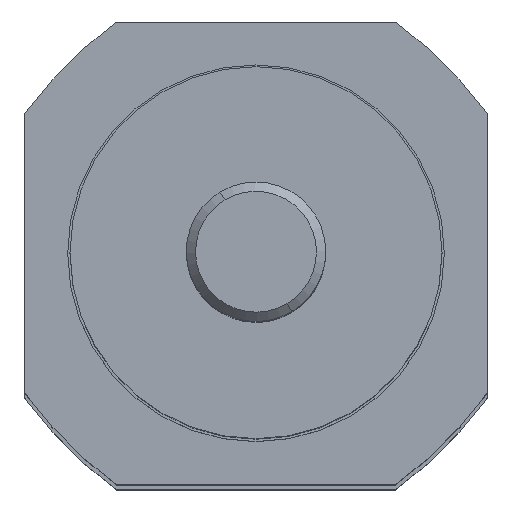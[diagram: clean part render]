
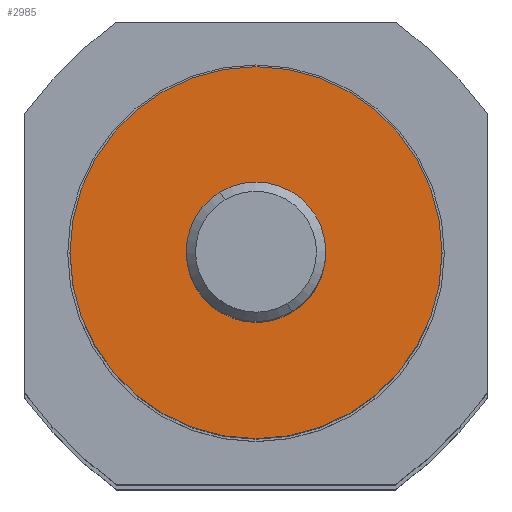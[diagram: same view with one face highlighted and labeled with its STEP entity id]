
A CAD part, top view. The second image highlights one B-rep face of the part: STEP entity #2985.
In plain terms, the highlighted planar face has unit normal (0, 0, 1) as drawn and (0, 0, -1) by its records, which use the part's own axes.
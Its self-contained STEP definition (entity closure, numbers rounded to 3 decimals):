
#54 = VERTEX_POINT ( 'NONE', #1761 ) ;
#55 = DIRECTION ( 'NONE',  ( -1., 0., 0. ) ) ;
#69 = EDGE_CURVE ( 'NONE', #2913, #457, #2394, .T. ) ;
#100 = CARTESIAN_POINT ( 'NONE',  ( 0., 0., 0. ) ) ;
#152 = CARTESIAN_POINT ( 'NONE',  ( 0., 0., 0. ) ) ;
#216 = EDGE_LOOP ( 'NONE', ( #1716, #591 ) ) ;
#261 = EDGE_CURVE ( 'NONE', #2970, #54, #2038, .T. ) ;
#303 = EDGE_CURVE ( 'NONE', #457, #2913, #2624, .T. ) ;
#314 = EDGE_CURVE ( 'NONE', #54, #2970, #1267, .T. ) ;
#346 = DIRECTION ( 'NONE',  ( 0., 0., -1. ) ) ;
#457 = VERTEX_POINT ( 'NONE', #1816 ) ;
#564 = CARTESIAN_POINT ( 'NONE',  ( 3., 0., 0. ) ) ;
#574 = DIRECTION ( 'NONE',  ( 0., 0., 1. ) ) ;
#591 = ORIENTED_EDGE ( 'NONE', *, *, #261, .F. ) ;
#773 = CARTESIAN_POINT ( 'NONE',  ( 8., 0., 0. ) ) ;
#956 = EDGE_LOOP ( 'NONE', ( #2683, #2772 ) ) ;
#1031 = DIRECTION ( 'NONE',  ( 1., 0., 0. ) ) ;
#1233 = CARTESIAN_POINT ( 'NONE',  ( 0., 0., 0. ) ) ;
#1259 = DIRECTION ( 'NONE',  ( 0., 0., 1. ) ) ;
#1267 = CIRCLE ( 'NONE', #1660, 3. ) ;
#1412 = DIRECTION ( 'NONE',  ( 1., 0., 0. ) ) ;
#1443 = FACE_BOUND ( 'NONE', #216, .T. ) ;
#1660 = AXIS2_PLACEMENT_3D ( 'NONE', #152, #346, #55 ) ;
#1716 = ORIENTED_EDGE ( 'NONE', *, *, #314, .F. ) ;
#1753 = AXIS2_PLACEMENT_3D ( 'NONE', #3214, #1934, #1412 ) ;
#1761 = CARTESIAN_POINT ( 'NONE',  ( -3., 0., 0. ) ) ;
#1816 = CARTESIAN_POINT ( 'NONE',  ( -8., 0., 0. ) ) ;
#1845 = AXIS2_PLACEMENT_3D ( 'NONE', #2757, #3031, #2771 ) ;
#1934 = DIRECTION ( 'NONE',  ( 0., 0., 1. ) ) ;
#2038 = CIRCLE ( 'NONE', #1845, 3. ) ;
#2341 = AXIS2_PLACEMENT_3D ( 'NONE', #1233, #1259, #1031 ) ;
#2344 = DIRECTION ( 'NONE',  ( 1., 0., 0. ) ) ;
#2394 = CIRCLE ( 'NONE', #2341, 8. ) ;
#2624 = CIRCLE ( 'NONE', #1753, 8. ) ;
#2683 = ORIENTED_EDGE ( 'NONE', *, *, #303, .F. ) ;
#2732 = FACE_OUTER_BOUND ( 'NONE', #956, .T. ) ;
#2757 = CARTESIAN_POINT ( 'NONE',  ( 0., 0., 0. ) ) ;
#2771 = DIRECTION ( 'NONE',  ( -1., 0., 0. ) ) ;
#2772 = ORIENTED_EDGE ( 'NONE', *, *, #69, .F. ) ;
#2846 = PLANE ( 'NONE',  #2921 ) ;
#2913 = VERTEX_POINT ( 'NONE', #773 ) ;
#2921 = AXIS2_PLACEMENT_3D ( 'NONE', #100, #574, #2344 ) ;
#2970 = VERTEX_POINT ( 'NONE', #564 ) ;
#2985 = ADVANCED_FACE ( 'NONE', ( #1443, #2732 ), #2846, .F. ) ;
#3031 = DIRECTION ( 'NONE',  ( 0., 0., -1. ) ) ;
#3214 = CARTESIAN_POINT ( 'NONE',  ( 0., 0., 0. ) ) ;
